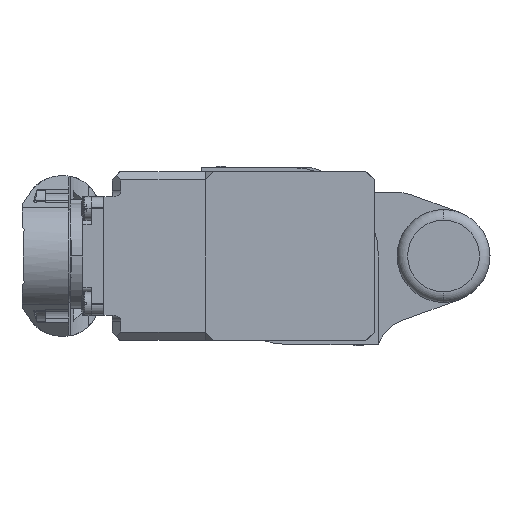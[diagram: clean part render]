
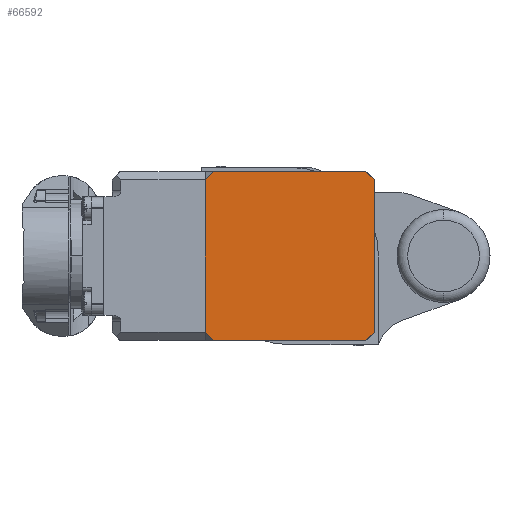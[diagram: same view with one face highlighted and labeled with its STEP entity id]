
A CAD part, left-side view. The second image highlights one B-rep face of the part: STEP entity #66592.
In plain terms, the highlighted planar face has unit normal (-1, 0, 0).
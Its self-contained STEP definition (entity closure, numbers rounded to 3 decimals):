
#1083 = CARTESIAN_POINT ( 'NONE',  ( -113., 18., 20. ) ) ;
#1244 = EDGE_CURVE ( 'NONE', #67239, #67431, #28820, .T. ) ;
#2105 = EDGE_CURVE ( 'NONE', #19137, #47065, #21670, .T. ) ;
#2370 = ORIENTED_EDGE ( 'NONE', *, *, #1244, .T. ) ;
#4126 = CARTESIAN_POINT ( 'NONE',  ( -113., 18., 20. ) ) ;
#9602 = CARTESIAN_POINT ( 'NONE',  ( -113., 20., 18. ) ) ;
#9662 = DIRECTION ( 'NONE',  ( 0., -1., 0. ) ) ;
#10663 = VECTOR ( 'NONE', #53996, 1000. ) ;
#11224 = LINE ( 'NONE', #21199, #24302 ) ;
#11559 = DIRECTION ( 'NONE',  ( 0., 1., 0. ) ) ;
#13722 = ORIENTED_EDGE ( 'NONE', *, *, #64805, .T. ) ;
#13995 = VECTOR ( 'NONE', #15157, 1000. ) ;
#15157 = DIRECTION ( 'NONE',  ( 0., -0.707, 0.707 ) ) ;
#15375 = CARTESIAN_POINT ( 'NONE',  ( -113., 0., 0. ) ) ;
#16880 = LINE ( 'NONE', #48523, #29972 ) ;
#17317 = CARTESIAN_POINT ( 'NONE',  ( -113., -18., -20. ) ) ;
#18883 = CARTESIAN_POINT ( 'NONE',  ( -113., -20., -18. ) ) ;
#19137 = VERTEX_POINT ( 'NONE', #27363 ) ;
#21199 = CARTESIAN_POINT ( 'NONE',  ( -113., 20., -18. ) ) ;
#21285 = LINE ( 'NONE', #22300, #62433 ) ;
#21348 = ORIENTED_EDGE ( 'NONE', *, *, #60430, .T. ) ;
#21452 = DIRECTION ( 'NONE',  ( 0., 0., 1. ) ) ;
#21670 = LINE ( 'NONE', #9602, #34759 ) ;
#22300 = CARTESIAN_POINT ( 'NONE',  ( -113., -18., 20. ) ) ;
#24302 = VECTOR ( 'NONE', #26836, 1000. ) ;
#25156 = ORIENTED_EDGE ( 'NONE', *, *, #66535, .T. ) ;
#26060 = FACE_OUTER_BOUND ( 'NONE', #29237, .T. ) ;
#26836 = DIRECTION ( 'NONE',  ( 0., -0.707, -0.707 ) ) ;
#27363 = CARTESIAN_POINT ( 'NONE',  ( -113., 20., 18. ) ) ;
#27596 = VERTEX_POINT ( 'NONE', #45437 ) ;
#28017 = CARTESIAN_POINT ( 'NONE',  ( -113., 20., -18. ) ) ;
#28820 = LINE ( 'NONE', #17317, #13995 ) ;
#29237 = EDGE_LOOP ( 'NONE', ( #2370, #21348, #32766, #48346, #53176, #44275, #25156, #13722 ) ) ;
#29972 = VECTOR ( 'NONE', #9662, 1000. ) ;
#31333 = VECTOR ( 'NONE', #45761, 1000. ) ;
#32240 = VECTOR ( 'NONE', #72421, 1000. ) ;
#32766 = ORIENTED_EDGE ( 'NONE', *, *, #55168, .T. ) ;
#33504 = CARTESIAN_POINT ( 'NONE',  ( -113., -20., 18. ) ) ;
#34759 = VECTOR ( 'NONE', #48457, 1000. ) ;
#37092 = CARTESIAN_POINT ( 'NONE',  ( -113., 18., -20. ) ) ;
#42073 = EDGE_CURVE ( 'NONE', #58413, #19137, #61125, .T. ) ;
#44275 = ORIENTED_EDGE ( 'NONE', *, *, #2105, .T. ) ;
#44545 = CARTESIAN_POINT ( 'NONE',  ( -113., -18., -20. ) ) ;
#45437 = CARTESIAN_POINT ( 'NONE',  ( -113., -18., 20. ) ) ;
#45761 = DIRECTION ( 'NONE',  ( 0., 0.707, -0.707 ) ) ;
#47065 = VERTEX_POINT ( 'NONE', #28017 ) ;
#48346 = ORIENTED_EDGE ( 'NONE', *, *, #51632, .T. ) ;
#48397 = CARTESIAN_POINT ( 'NONE',  ( -113., -20., -18. ) ) ;
#48457 = DIRECTION ( 'NONE',  ( 0., 0., -1. ) ) ;
#48523 = CARTESIAN_POINT ( 'NONE',  ( -113., 18., -20. ) ) ;
#51632 = EDGE_CURVE ( 'NONE', #27596, #58413, #21285, .T. ) ;
#52119 = AXIS2_PLACEMENT_3D ( 'NONE', #15375, #54951, #21452 ) ;
#53176 = ORIENTED_EDGE ( 'NONE', *, *, #42073, .T. ) ;
#53492 = CARTESIAN_POINT ( 'NONE',  ( -113., -20., 18. ) ) ;
#53494 = LINE ( 'NONE', #48397, #10663 ) ;
#53996 = DIRECTION ( 'NONE',  ( 0., 0., 1. ) ) ;
#54951 = DIRECTION ( 'NONE',  ( -1., 0., 0. ) ) ;
#55168 = EDGE_CURVE ( 'NONE', #66468, #27596, #62029, .T. ) ;
#58413 = VERTEX_POINT ( 'NONE', #4126 ) ;
#60430 = EDGE_CURVE ( 'NONE', #67431, #66468, #53494, .T. ) ;
#61125 = LINE ( 'NONE', #1083, #31333 ) ;
#62029 = LINE ( 'NONE', #33504, #32240 ) ;
#62433 = VECTOR ( 'NONE', #11559, 1000. ) ;
#64805 = EDGE_CURVE ( 'NONE', #68028, #67239, #16880, .T. ) ;
#66468 = VERTEX_POINT ( 'NONE', #53492 ) ;
#66535 = EDGE_CURVE ( 'NONE', #47065, #68028, #11224, .T. ) ;
#66592 = ADVANCED_FACE ( 'NONE', ( #26060 ), #71592, .T. ) ;
#67239 = VERTEX_POINT ( 'NONE', #44545 ) ;
#67431 = VERTEX_POINT ( 'NONE', #18883 ) ;
#68028 = VERTEX_POINT ( 'NONE', #37092 ) ;
#71592 = PLANE ( 'NONE',  #52119 ) ;
#72421 = DIRECTION ( 'NONE',  ( 0., 0.707, 0.707 ) ) ;
